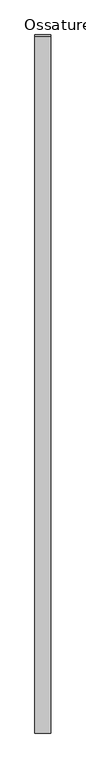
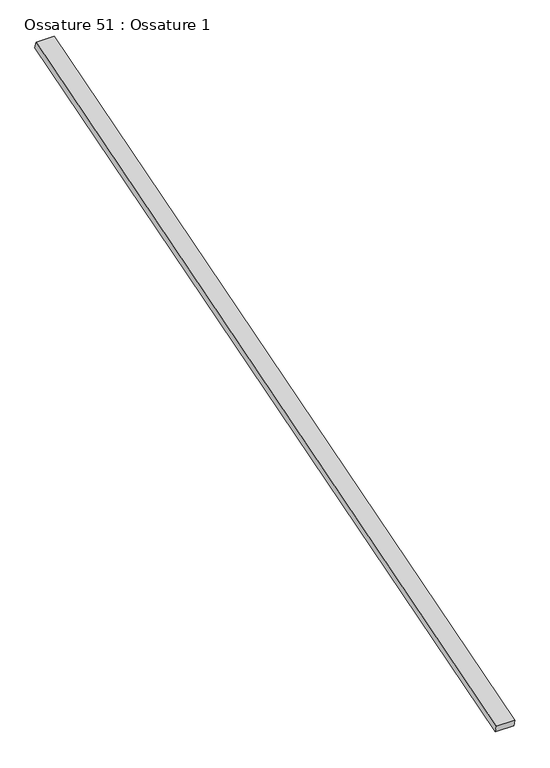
"""IFC4 building model written with IfcOpenShell, lengths in millimetres: beam geometry, Ossature 51 : Ossature 1."""

from ifc_helpers import new_model, si_unit, frame, origin, place, context, project, spatial, polyline, outline, extrude, source, transform, mapped, element, save


def ossature_51_ossature_1_7cc83fe9(model_context):
    return source(origin(), model_context, "Body", "SweptSolid", [
        extrude(outline(polyline([(0.0, 0.0), (0.0, -4543.0299679), (-100.0, -4543.0299679), (-100.0, 0.0), (0.0, 0.0)])), frame((12443.4466393, -833.3913565, 8153.6336115), z_axis=(0.0, -0.28734788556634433, 0.9578262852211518), x_axis=(-1.0, 0.0, 0.0)), (0.0, 0.0, 1.0), 40.0),
    ])


if __name__ == "__main__":
    model = new_model("IFC4")
    model_context = context("Model", 3, world=origin())
    ifc_project = project(units=[si_unit("LENGTHUNIT", "METRE", prefix="MILLI")], contexts=[model_context])
    site = spatial("IfcSite", under=ifc_project)
    building = spatial("IfcBuilding", under=site)
    placement = place(None, origin())
    ossature_51_ossature_1_shape = ossature_51_ossature_1_7cc83fe9(model_context)
    element("IfcBeam", 1, ObjectType="Ossature 51 : Ossature 1", at=placement, inside=building, context=model_context, shape_type="MappedRepresentation", body=[
        mapped(ossature_51_ossature_1_shape, transform((0.0, 0.0, 0.0), x_axis=(1.0, 0.0, 0.0), y_axis=(0.0, 1.0, 0.0), z_axis=(0.0, 0.0, 1.0))),
    ])
    save(model, "model.ifc")
